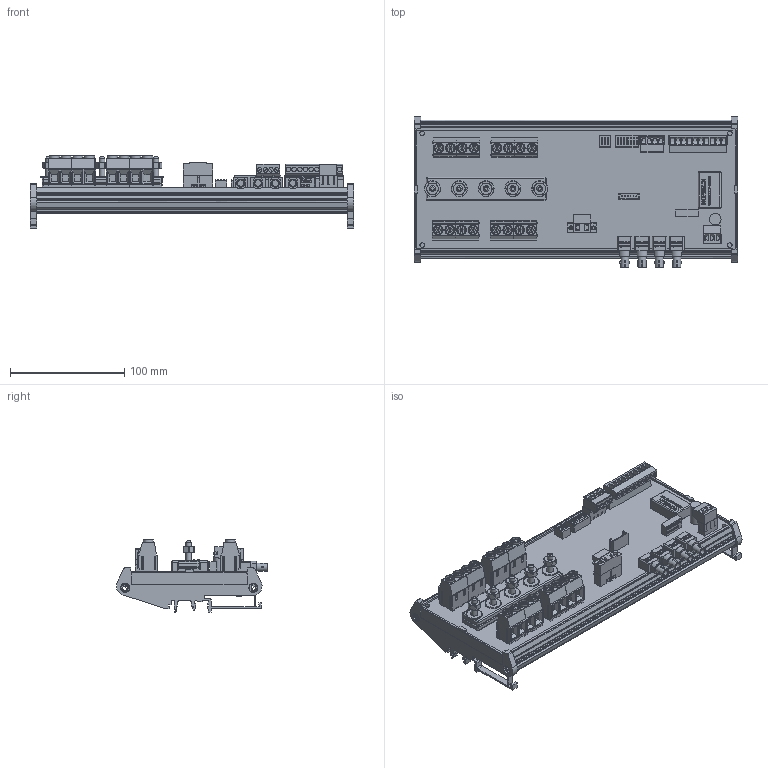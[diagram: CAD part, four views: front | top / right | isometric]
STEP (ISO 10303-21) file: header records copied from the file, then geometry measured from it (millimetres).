
FILE_DESCRIPTION(('FreeCAD Model'),'2;1');
FILE_NAME('C:/3D Files/Stringhe/ST2N/ST2N1635 DR/ST2N1635 DR.step', '2021-01-29T17:28:20',('Author'),(''), 'Open CASCADE STEP processor 7.2','FreeCAD','Unknown');
FILE_SCHEMA(('AUTOMOTIVE_DESIGN { 1 0 10303 214 1 1 1 1 }'));
Length unit declared in the file: millimetre
Products named in the file (47): ST2N1635_DR; Mstb_3P_F; Mstb_3Pc_M; AmpModu_6P_M; DipSwitch8; DipSwitch4; Dado6MA003; Dado6MA004; Dado6MA005; Dado6MA006; Rondella6; Rondella007; Rondella008; Rondella009; CH_01-02; CH_03-04; CH_05-06; CH_07-08; CH_09-10; CH_11-12; CN3_M; Mstb_10Pc_M; Mstb_10P_F; CN3_F; Mstb_4Pc_M; Mstb_4P_F; IB2405LS-1W; WRB2403ZP-6WR003; ELNA_470_uF_35_V; VTBSE-6x35; VTBSE-6x031; VTBSE-6x032; VTBSE-6x033; CH_13-14; CH_15-16; Barra_105_mm; Barra_105_mm001; Barra_105_mm002; Stampato_279,7_x_108; Profilo_284x128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
Assembly tree (46 placements, depth 2):
  ST2N1635_DR
    Mstb_3P_F
    Mstb_3Pc_M
    AmpModu_6P_M
    DipSwitch8
    DipSwitch4
    Dado6MA003
    Dado6MA004
    Dado6MA005
    Dado6MA006
    Rondella6
    Rondella007
    Rondella008
    Rondella009
    CH_01-02
    CH_03-04
    CH_05-06
    CH_07-08
    CH_09-10
    CH_11-12
    CN3_M
    Mstb_10Pc_M
    Mstb_10P_F
    CN3_F
    Mstb_4Pc_M
    Mstb_4P_F
    IB2405LS-1W
    WRB2403ZP-6WR003
    ELNA_470_uF_35_V
    VTBSE-6x35
    VTBSE-6x031
    VTBSE-6x032
    VTBSE-6x033
    CH_13-14
    CH_15-16
    Barra_105_mm
    Barra_105_mm001
    Barra_105_mm002
    Stampato_279,7_x_108
    Profilo_284x128
    VTBSE-6x034
    Rondella010
    Dado6MA007
    HFBR-x41xTZ001
    HFBR-x41xTZ002
    HFBR-x41xTZ003
    HFBR-x41xTZ004
Bounding box: 284 x 132.43 x 63.19 mm (x, y, z)
Volume: 296468.4 mm3; surface area: 300281.5 mm2
Topology: 126 solids, 245 shells, 4863 faces, 17533 edges, 23534 vertices
Faces by surface type: plane 3604, cylinder 864, bspline 185, cone 111, torus 57, sphere 40, extrusion 2
Full cylindrical faces by diameter (mm): 0.5 x36, 0.75 x36, 1 x18, 1.5 x13, 1.6 x6, 1.8 x2, 2.05 x2, 2.5 x2, 3.3 x2, 3.5 x2, 3.8 x2, 4 x25, 4.3 x2, 4.917 x5, 5 x10, 5.6 x4, 6.6 x5, 7 x15, 7.1 x4, 7.2 x16, 7.5 x16, 7.9 x4, 8.66 x16, 9.202 x2, 10 x6, 14 x5
Entity records: 412551 total; most frequent: CARTESIAN_POINT 98105, DIRECTION 50460, VECTOR 33575, LINE 33573, ORIENTED_EDGE 26083, PCURVE 26083, DEFINITIONAL_REPRESENTATION 26083, EDGE_CURVE 13928
